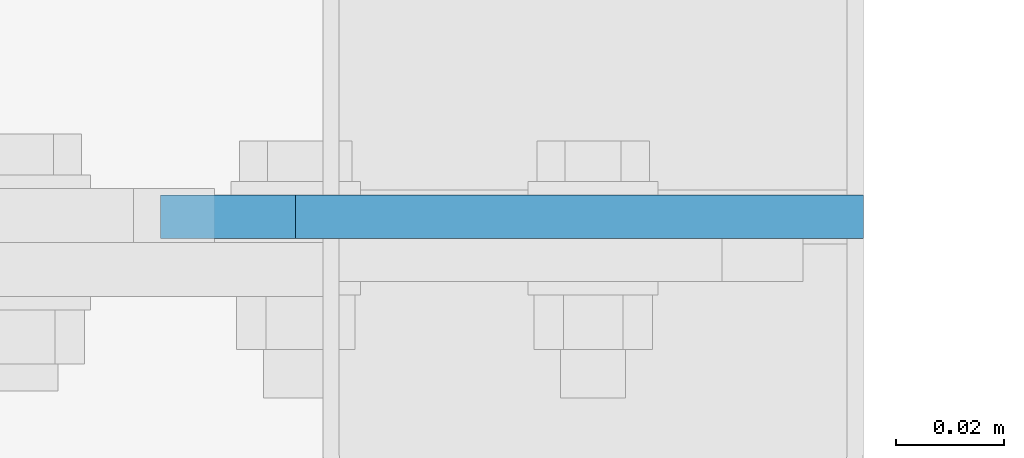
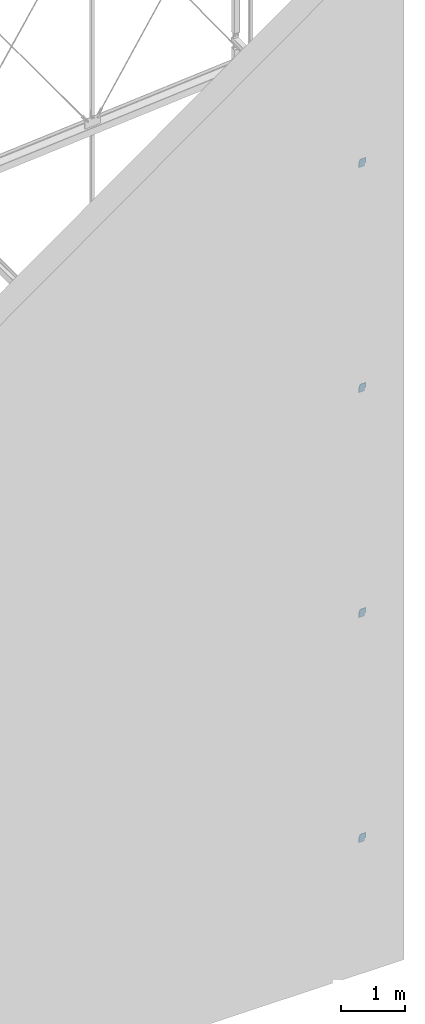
# One storey, part 164 of 271: 4 plates, 4 elements without a shape of their own.
"""IFC2X3 building model written with IfcOpenShell, lengths in millimetres."""

import ifcopenshell
import ifcopenshell.guid

model = None  # the IFC model being written
_history = None  # IfcOwnerHistory: only IFC2X3 demands one
_inside = {}  # id of a spatial element -> (the spatial element, [elements in it])
_under = {}  # id of a project, library or spatial element -> (it, [spatial elements below it])
_declared = {}  # id of a project -> (the project, [libraries it declares])
_typed = {}  # id of a type object -> (the type object, [elements of that type])
_made_of = {}  # id of a material, layer set ... -> (it, [elements and type objects made of it])


def new_model(schema):
    """Start an empty IFC model of exactly this schema.

    Asked for "IFC4X3", IfcOpenShell would pick the latest addendum, in which some entities
    have other attributes; the version numbers below select the first issue.
    IFC2X3 requires an IfcOwnerHistory on every rooted entity: one is made here for all.
    """
    global model, _history
    if schema == "IFC4X3":
        model = ifcopenshell.file(schema_version=(4, 3, 0, 0))
    else:
        model = ifcopenshell.file(schema=schema)
    _inside.clear()
    _under.clear()
    _declared.clear()
    _typed.clear()
    _made_of.clear()
    _history = None
    if model.schema == "IFC2X3":
        org = make("IfcOrganization", Name="unknown")
        user = make(
            "IfcPersonAndOrganization",
            ThePerson=make("IfcPerson", FamilyName="unknown"),
            TheOrganization=org,
        )
        app = make(
            "IfcApplication",
            ApplicationDeveloper=org,
            Version="unknown",
            ApplicationFullName="unknown",
            ApplicationIdentifier="unknown",
        )
        _history = make(
            "IfcOwnerHistory",
            OwningUser=user,
            OwningApplication=app,
            ChangeAction="ADDED",
            CreationDate=0,
        )
    return model


def make(cls, **values):
    """One entity of the class cls with the attributes given. An attribute that is None is left unset."""
    return model.create_entity(
        cls, **{name: value for name, value in values.items() if value is not None}
    )


def rooted(cls, **values):
    """An entity with a GlobalId (a new one), such as an element, a storey or a relation."""
    return make(cls, GlobalId=ifcopenshell.guid.new(), OwnerHistory=_history, **values)


def si_unit(unit_type, name, prefix=None):
    """IfcSIUnit, for example si_unit("LENGTHUNIT", "METRE", prefix="MILLI")."""
    return make("IfcSIUnit", UnitType=unit_type, Prefix=prefix, Name=name)


def assignment(units):
    """IfcUnitAssignment: the units of a project."""
    return None if units is None else make("IfcUnitAssignment", Units=units)


def point(xyz):
    """IfcCartesianPoint."""
    return None if xyz is None else make("IfcCartesianPoint", Coordinates=xyz)


def direction(xyz):
    """IfcDirection."""
    return None if xyz is None else make("IfcDirection", DirectionRatios=xyz)


def frame(location, z_axis=None, x_axis=None):
    """IfcAxis2Placement3D, a coordinate frame: its origin and axes. An axis left out is left unset."""
    return make(
        "IfcAxis2Placement3D",
        Location=point(location),
        Axis=direction(z_axis),
        RefDirection=direction(x_axis),
    )


def origin_with_axes():
    """The frame at (0, 0, 0) with the z axis (0, 0, 1) and the x axis (1, 0, 0) written out."""
    return frame((0.0, 0.0, 0.0), z_axis=(0.0, 0.0, 1.0), x_axis=(1.0, 0.0, 0.0))


def place(relative_to, where):
    """IfcLocalPlacement: puts the frame where relative to a parent placement (None: the world)."""
    return make(
        "IfcLocalPlacement", PlacementRelTo=relative_to, RelativePlacement=where
    )


def context(
    kind, dimensions, precision=None, world=None, true_north=None, identifier=None
):
    """IfcGeometricRepresentationContext, for example the 3D "Model" context."""
    return make(
        "IfcGeometricRepresentationContext",
        ContextIdentifier=identifier,
        ContextType=kind,
        CoordinateSpaceDimension=dimensions,
        Precision=precision,
        WorldCoordinateSystem=world,
        TrueNorth=true_north,
    )


def subcontext(parent, identifier, kind, view, scale=None):
    """IfcGeometricRepresentationSubContext, for example "Body" below "Model"."""
    return make(
        "IfcGeometricRepresentationSubContext",
        ContextIdentifier=identifier,
        ContextType=kind,
        ParentContext=parent,
        TargetScale=scale,
        TargetView=view,
    )


def project(units=None, contexts=None):
    """IfcProject with its units and contexts."""
    return rooted(
        "IfcProject",
        Name="project",
        RepresentationContexts=contexts,
        UnitsInContext=assignment(units),
    )


def spatial(cls, under=None, at=None, **own):
    """A site, building, storey or space (cls), placed at a placement, below another one or the project."""
    s = rooted(cls, ObjectPlacement=at, **own)
    if under is not None:
        _under.setdefault(under.id(), (under, []))[1].append(s)
    return s


def polyline(points):
    """IfcPolyline through the points."""
    return make("IfcPolyline", Points=[point(p) for p in points])


def outline(outer, holes=None, kind="AREA"):
    """IfcArbitraryClosedProfileDef: a profile drawn as a closed curve; with holes, ...WithVoids."""
    if holes is None:
        return make("IfcArbitraryClosedProfileDef", ProfileType=kind, OuterCurve=outer)
    return make(
        "IfcArbitraryProfileDefWithVoids",
        ProfileType=kind,
        OuterCurve=outer,
        InnerCurves=holes,
    )


def extrude(swept, where, along, depth):
    """IfcExtrudedAreaSolid: the profile swept, set in the frame where, extruded along a direction by depth."""
    return make(
        "IfcExtrudedAreaSolid",
        SweptArea=swept,
        Position=where,
        ExtrudedDirection=direction(along),
        Depth=depth,
    )


def shape(context_of_items, identifier, shape_type, items):
    """IfcShapeRepresentation: the items that make up one representation, for example the "Body"."""
    return make(
        "IfcShapeRepresentation",
        ContextOfItems=context_of_items,
        RepresentationIdentifier=identifier,
        RepresentationType=shape_type,
        Items=items,
    )


def material(Name=None, Category=None):
    """IfcMaterial."""
    return make("IfcMaterial", Name=Name, Category=Category)


def made_of(thing, what):
    """Note that an element or type object is made of a material, layer set ...; save() writes the relation."""
    if what is not None:
        _made_of.setdefault(what.id(), (what, []))[1].append(thing)
    return thing


def type_object(cls, material=None, **own):
    """A type object (cls), such as IfcWallType, which elements share."""
    return made_of(rooted(cls, **own), material)


def element(
    cls,
    number,
    at=None,
    inside=None,
    cuts=None,
    type_object=None,
    material=None,
    context=None,
    identifier="Body",
    shape_type=None,
    held_by="IfcProductDefinitionShape",
    body=None,
    shapes=None,
    **own,
):
    """One element of the class cls, such as IfcWall. Its Tag is "e" and its number.

    at: its placement. inside: the storey or other place that contains it. cuts: it is an
    opening in that element (IfcRelVoidsElement). A single representation is given by context,
    identifier, shape_type and body (its items); several are given by shapes. held_by: the class
    of the entity that holds the representations. save() writes the other relations.
    """
    e = rooted(cls, Tag="e%d" % number, ObjectPlacement=at, **own)
    if body is not None:
        shapes = [shape(context, identifier, shape_type, body)]
    if shapes is not None:
        e.Representation = make(held_by, Representations=shapes)
    if inside is not None:
        _inside.setdefault(inside.id(), (inside, []))[1].append(e)
    if cuts is not None:
        rooted(
            "IfcRelVoidsElement", RelatingBuildingElement=cuts, RelatedOpeningElement=e
        )
    if type_object is not None:
        _typed.setdefault(type_object.id(), (type_object, []))[1].append(e)
    return made_of(e, material)


def aggregate(whole, parts):
    """IfcRelAggregates: a whole, such as a stair, and the parts it consists of."""
    return rooted("IfcRelAggregates", RelatingObject=whole, RelatedObjects=parts)


def save(model, path):
    """Write the relations noted so far, then the file.

    IfcRelAggregates (storeys below a building ...), IfcRelContainedInSpatialStructure (elements
    in a storey), IfcRelDefinesByType, IfcRelAssociatesMaterial and IfcRelDeclares: one each for
    every whole, place, type object, material and project.
    """
    for whole, parts in _under.values():
        aggregate(whole, parts)
    for where, things in _inside.values():
        rooted(
            "IfcRelContainedInSpatialStructure",
            RelatedElements=things,
            RelatingStructure=where,
        )
    for kind, things in _typed.values():
        rooted("IfcRelDefinesByType", RelatedObjects=things, RelatingType=kind)
    for what, things in _made_of.values():
        rooted("IfcRelAssociatesMaterial", RelatedObjects=things, RelatingMaterial=what)
    for by, libraries in _declared.values():
        rooted("IfcRelDeclares", RelatingContext=by, RelatedDefinitions=libraries)
    model.write(path)


model = new_model("IFC2X3")

# Units and contexts
model_context = context("Model", 3, precision=1e-05, world=origin_with_axes())
body_context = subcontext(model_context, "Body", "Model", "MODEL_VIEW")
ifc_project = project(units=[si_unit("LENGTHUNIT", "METRE", prefix="MILLI"), si_unit("AREAUNIT", "SQUARE_METRE"), si_unit("VOLUMEUNIT", "CUBIC_METRE"), si_unit("MASSUNIT", "GRAM", prefix="KILO"), si_unit("TIMEUNIT", "SECOND"), si_unit("PLANEANGLEUNIT", "RADIAN"), si_unit("SOLIDANGLEUNIT", "STERADIAN"), si_unit("THERMODYNAMICTEMPERATUREUNIT", "DEGREE_CELSIUS"), si_unit("LUMINOUSINTENSITYUNIT", "LUMEN")], contexts=[model_context])

# Site, building, storey
site_placement = place(None, origin_with_axes())
site = spatial("IfcSite", under=ifc_project, at=site_placement, Name="Undefined", CompositionType="ELEMENT")
building_placement = place(site_placement, origin_with_axes())
building = spatial("IfcBuilding", under=site, at=building_placement, Name="Undefined", CompositionType="ELEMENT")
storey_placement = place(building_placement, origin_with_axes())
storey = spatial("IfcBuildingStorey", under=building, at=storey_placement, Name="Undefined", CompositionType="ELEMENT", Elevation=0.0)

# Assembly, plate
assembly_1_placement = place(storey_placement, origin_with_axes())
assembly_1 = element("IfcElementAssembly", 1, at=assembly_1_placement, inside=storey, AssemblyPlace="NOTDEFINED", PredefinedType="RIGID_FRAME")
ifc_material = material(Name="STEEL/S355JR")
plate_type = type_object("IfcPlateType", Name="BL8*130", PredefinedType="NOTDEFINED")
plate_1_placement = place(assembly_1_placement, frame((12578.3756870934, 899.052119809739, 1531.84999990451), z_axis=(0.0, -1.0, 0.0), x_axis=(0.0, 0.0, -1.0)))
plate_1 = element("IfcPlate", 2, at=plate_1_placement, type_object=plate_type, material=ifc_material, Name="BLACHA", ObjectType="BL8*130", context=body_context, shape_type="SweptSolid", body=[
    extrude(outline(polyline([(0.0, 25.0), (70.0, -8.66862137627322e-13), (155.0, -2.06057393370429e-12), (155.0, 105.0), (94.9999999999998, 105.0), (94.9999999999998, 130.0), (-3.5527136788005e-14, 130.0), (0.0, 25.0)])), frame((0.0, 0.0, -4.0), z_axis=(0.0, 0.0, 1.0), x_axis=(1.0, 0.0, 0.0)), (0.0, 0.0, 1.0), 8.0),
])
aggregate(assembly_1, [plate_1])

assembly_2_placement = place(storey_placement, origin_with_axes())
assembly_2 = element("IfcElementAssembly", 3, at=assembly_2_placement, inside=storey, AssemblyPlace="NOTDEFINED", PredefinedType="RIGID_FRAME")
plate_2_placement = place(assembly_2_placement, frame((12578.3756870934, 899.052119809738, 5851.84999990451), z_axis=(0.0, -1.0, 0.0), x_axis=(0.0, 0.0, -1.0)))
plate_2 = element("IfcPlate", 4, at=plate_2_placement, type_object=plate_type, material=ifc_material, Name="BLACHA", ObjectType="BL8*130", context=body_context, shape_type="SweptSolid", body=[
    extrude(outline(polyline([(0.0, 25.0), (70.0, -8.66862137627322e-13), (155.0, -2.06057393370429e-12), (155.0, 105.0), (94.9999999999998, 105.0), (94.9999999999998, 130.0), (-3.5527136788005e-14, 130.0), (0.0, 25.0)])), frame((0.0, 0.0, -4.0), z_axis=(0.0, 0.0, 1.0), x_axis=(1.0, 0.0, 0.0)), (0.0, 0.0, 1.0), 8.0),
])
aggregate(assembly_2, [plate_2])

assembly_3_placement = place(storey_placement, origin_with_axes())
assembly_3 = element("IfcElementAssembly", 5, at=assembly_3_placement, inside=storey, AssemblyPlace="NOTDEFINED", PredefinedType="RIGID_FRAME")
plate_3_placement = place(assembly_3_placement, frame((12578.3756870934, 899.052119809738, 10171.8499999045), z_axis=(0.0, -1.0, 0.0), x_axis=(0.0, 0.0, -1.0)))
plate_3 = element("IfcPlate", 6, at=plate_3_placement, type_object=plate_type, material=ifc_material, Name="BLACHA", ObjectType="BL8*130", context=body_context, shape_type="SweptSolid", body=[
    extrude(outline(polyline([(0.0, 25.0), (70.0, -8.66862137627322e-13), (155.0, -2.06057393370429e-12), (155.0, 105.0), (94.9999999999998, 105.0), (94.9999999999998, 130.0), (-3.5527136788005e-14, 130.0), (0.0, 25.0)])), frame((0.0, 0.0, -4.0), z_axis=(0.0, 0.0, 1.0), x_axis=(1.0, 0.0, 0.0)), (0.0, 0.0, 1.0), 8.0),
])
aggregate(assembly_3, [plate_3])

assembly_4_placement = place(storey_placement, origin_with_axes())
assembly_4 = element("IfcElementAssembly", 7, at=assembly_4_placement, inside=storey, AssemblyPlace="NOTDEFINED", PredefinedType="RIGID_FRAME")
plate_4_placement = place(assembly_4_placement, frame((12578.3756870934, 899.052119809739, 14491.8499999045), z_axis=(0.0, -1.0, 0.0), x_axis=(0.0, 0.0, -1.0)))
plate_4 = element("IfcPlate", 8, at=plate_4_placement, type_object=plate_type, material=ifc_material, Name="BLACHA", ObjectType="BL8*130", context=body_context, shape_type="SweptSolid", body=[
    extrude(outline(polyline([(0.0, 25.0), (70.0, -8.66862137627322e-13), (155.0, -2.06057393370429e-12), (155.0, 105.0), (94.9999999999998, 105.0), (94.9999999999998, 130.0), (-3.5527136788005e-14, 130.0), (0.0, 25.0)])), frame((0.0, 0.0, -4.0), z_axis=(0.0, 0.0, 1.0), x_axis=(1.0, 0.0, 0.0)), (0.0, 0.0, 1.0), 8.0),
])
aggregate(assembly_4, [plate_4])

save(model, "model.ifc")
